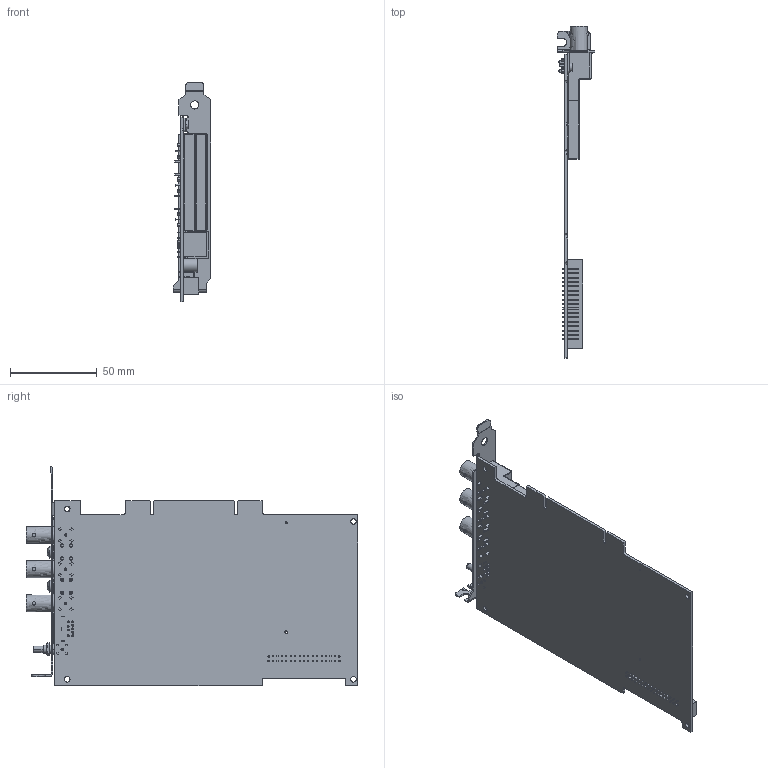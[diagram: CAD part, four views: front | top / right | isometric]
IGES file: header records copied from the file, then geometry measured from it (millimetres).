
Start section:  PTC IGES file: cu_pci-5112.igs
Global section: file name: cu_pci-5112.igs; native system: Pro/ENGINEER by Parametric Technology Corporation; preprocessor: 2006080; author: jjorden; organization: Unknown; date: 091202.091438; units: inch
Bounding box: 21.59 x 190.78 x 126.22 mm (x, y, z)
Surface area: 60344.3 mm2 (no closed solid volume)
Topology: 0 solids, 0 shells, 1355 faces, 7130 edges, 7090 vertices
Faces by surface type: bspline 979, revolution 376
